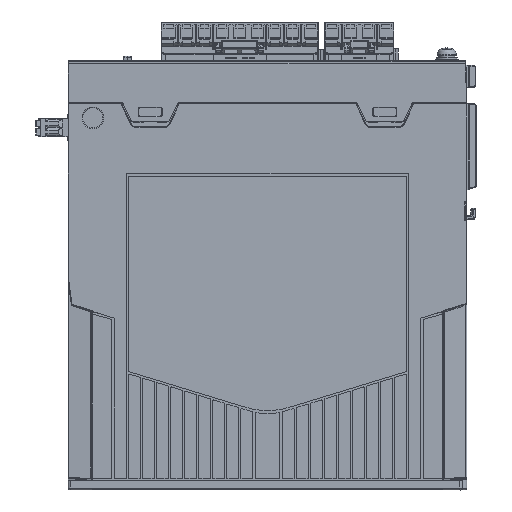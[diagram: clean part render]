
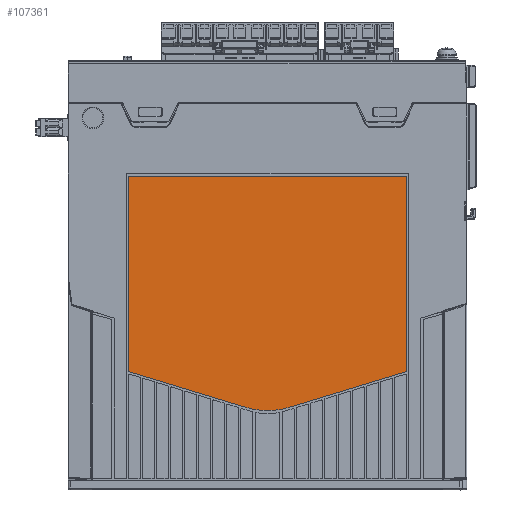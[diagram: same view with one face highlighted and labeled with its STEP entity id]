
A CAD part, left-side view. The second image highlights one B-rep face of the part: STEP entity #107361.
In plain terms, the highlighted planar face has unit normal (-1, 0, 0).
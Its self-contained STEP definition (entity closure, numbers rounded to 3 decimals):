
#36124=DIRECTION('',(0.,0.,1.));
#36125=VECTOR('',#36124,82.738);
#36126=CARTESIAN_POINT('',(-55.9,134.302,-114.203));
#36127=LINE('',#36126,#36125);
#36145=DIRECTION('',(0.,-1.,0.));
#36146=VECTOR('',#36145,118.);
#36147=CARTESIAN_POINT('',(-55.9,134.002,-31.165));
#36148=LINE('',#36147,#36146);
#36166=DIRECTION('',(0.,0.,-1.));
#36167=VECTOR('',#36166,82.738);
#36168=CARTESIAN_POINT('',(-55.9,15.702,-31.465));
#36169=LINE('',#36168,#36167);
#36201=CARTESIAN_POINT('',(-55.9,16.002,-114.203));
#36202=DIRECTION('',(-1.,0.,0.));
#36203=DIRECTION('',(0.,-0.292,-0.956));
#36204=AXIS2_PLACEMENT_3D('',#36201,#36202,#36203);
#36209=DIRECTION('',(0.,-0.956,0.292));
#36210=VECTOR('',#36209,52.616);
#36211=CARTESIAN_POINT('',(-55.9,66.23,-129.874));
#36212=LINE('',#36211,#36210);
#36216=CARTESIAN_POINT('',(-55.9,75.002,-101.184));
#36217=DIRECTION('',(-1.,0.,0.));
#36218=DIRECTION('',(0.,0.,-1.));
#36219=AXIS2_PLACEMENT_3D('',#36216,#36217,#36218);
#36224=CARTESIAN_POINT('',(-55.9,75.002,-101.184));
#36225=DIRECTION('',(-1.,0.,0.));
#36226=DIRECTION('',(0.,0.292,-0.956));
#36227=AXIS2_PLACEMENT_3D('',#36224,#36225,#36226);
#36232=DIRECTION('',(0.,-0.956,-0.292));
#36233=VECTOR('',#36232,52.616);
#36234=CARTESIAN_POINT('',(-55.9,134.089,-114.49));
#36235=LINE('',#36234,#36233);
#36239=CARTESIAN_POINT('',(-55.9,134.002,-114.203));
#36240=DIRECTION('',(-1.,0.,0.));
#36241=DIRECTION('',(0.,1.,0.));
#36242=AXIS2_PLACEMENT_3D('',#36239,#36240,#36241);
#36247=CARTESIAN_POINT('',(-55.9,134.002,-31.465));
#36248=DIRECTION('',(-1.,0.,0.));
#36249=DIRECTION('',(0.,0.,1.));
#36250=AXIS2_PLACEMENT_3D('',#36247,#36248,#36249);
#36255=CARTESIAN_POINT('',(-55.9,16.002,-31.465));
#36256=DIRECTION('',(-1.,0.,0.));
#36257=DIRECTION('',(0.,-1.,0.));
#36258=AXIS2_PLACEMENT_3D('',#36255,#36256,#36257);
#73602=CARTESIAN_POINT('',(-55.9,83.773,-129.874));
#73603=VERTEX_POINT('',#73602);
#73604=CARTESIAN_POINT('',(-55.9,134.089,-114.49));
#73605=VERTEX_POINT('',#73604);
#73606=CARTESIAN_POINT('',(-55.9,66.23,-129.874));
#73607=VERTEX_POINT('',#73606);
#73608=CARTESIAN_POINT('',(-55.9,75.002,-131.184));
#73609=VERTEX_POINT('',#73608);
#73610=CARTESIAN_POINT('',(-55.9,15.914,-114.49));
#73611=VERTEX_POINT('',#73610);
#73612=CARTESIAN_POINT('',(-55.9,15.702,-114.203));
#73613=VERTEX_POINT('',#73612);
#73614=CARTESIAN_POINT('',(-55.9,15.702,-31.465));
#73615=VERTEX_POINT('',#73614);
#73616=CARTESIAN_POINT('',(-55.9,16.002,-31.165));
#73617=VERTEX_POINT('',#73616);
#73618=CARTESIAN_POINT('',(-55.9,134.002,-31.165));
#73619=VERTEX_POINT('',#73618);
#73620=CARTESIAN_POINT('',(-55.9,134.302,-31.465));
#73621=VERTEX_POINT('',#73620);
#73622=CARTESIAN_POINT('',(-55.9,134.302,-114.203));
#73623=VERTEX_POINT('',#73622);
#107343=CARTESIAN_POINT('',(-55.9,75.002,-80.35));
#107344=DIRECTION('',(-1.,0.,0.));
#107345=DIRECTION('',(0.,0.,1.));
#107346=AXIS2_PLACEMENT_3D('',#107343,#107344,#107345);
#107347=PLANE('',#107346);
#107348=ORIENTED_EDGE('',*,*,#107307,.F.);
#107349=ORIENTED_EDGE('',*,*,#107321,.F.);
#107350=ORIENTED_EDGE('',*,*,#107337,.F.);
#107351=ORIENTED_EDGE('',*,*,#107335,.F.);
#107352=ORIENTED_EDGE('',*,*,#107208,.F.);
#107353=ORIENTED_EDGE('',*,*,#107223,.F.);
#107354=ORIENTED_EDGE('',*,*,#107237,.T.);
#107355=ORIENTED_EDGE('',*,*,#107251,.F.);
#107356=ORIENTED_EDGE('',*,*,#107265,.T.);
#107357=ORIENTED_EDGE('',*,*,#107279,.F.);
#107358=ORIENTED_EDGE('',*,*,#107293,.T.);
#107359=EDGE_LOOP('',(#107348,#107349,#107350,#107351,#107352,#107353,#107354,
#107355,#107356,#107357,#107358));
#107360=FACE_OUTER_BOUND('',#107359,.F.);
#36205=CIRCLE('',#36204,0.3);
#36220=CIRCLE('',#36219,30.);
#36228=CIRCLE('',#36227,30.);
#36243=CIRCLE('',#36242,0.3);
#36251=CIRCLE('',#36250,0.3);
#36259=CIRCLE('',#36258,0.3);
#107208=EDGE_CURVE('',#73605,#73603,#36235,.T.);
#107223=EDGE_CURVE('',#73623,#73605,#36243,.T.);
#107237=EDGE_CURVE('',#73623,#73621,#36127,.T.);
#107251=EDGE_CURVE('',#73619,#73621,#36251,.T.);
#107265=EDGE_CURVE('',#73619,#73617,#36148,.T.);
#107279=EDGE_CURVE('',#73615,#73617,#36259,.T.);
#107293=EDGE_CURVE('',#73615,#73613,#36169,.T.);
#107307=EDGE_CURVE('',#73611,#73613,#36205,.T.);
#107321=EDGE_CURVE('',#73607,#73611,#36212,.T.);
#107335=EDGE_CURVE('',#73603,#73609,#36228,.T.);
#107337=EDGE_CURVE('',#73609,#73607,#36220,.T.);
#107361=ADVANCED_FACE('',(#107360),#107347,.T.);
